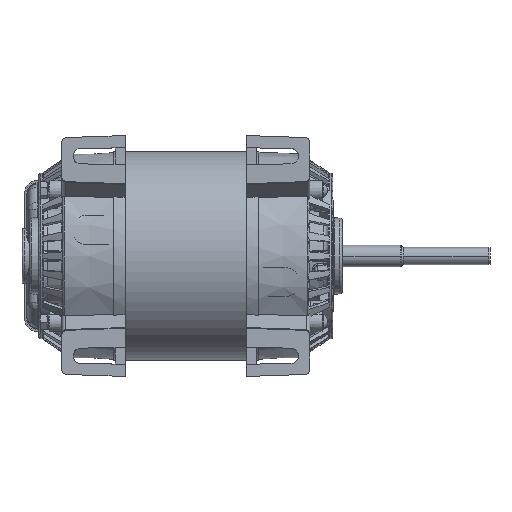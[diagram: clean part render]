
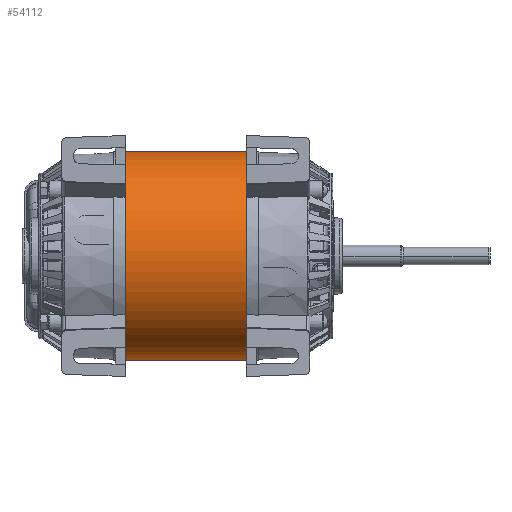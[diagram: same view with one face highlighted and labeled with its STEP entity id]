
A CAD part, front view. The second image highlights one B-rep face of the part: STEP entity #54112.
In plain terms, the highlighted cylindrical face has radius 48 mm (diameter 96 mm), a partial arc.
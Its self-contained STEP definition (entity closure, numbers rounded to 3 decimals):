
#2749 = DIRECTION ( 'NONE',  ( 1., 0., 0. ) ) ;
#4159 = DIRECTION ( 'NONE',  ( -1., 0., 0. ) ) ;
#6155 = ORIENTED_EDGE ( 'NONE', *, *, #107371, .T. ) ;
#11751 = VERTEX_POINT ( 'NONE', #82400 ) ;
#11985 = CARTESIAN_POINT ( 'NONE',  ( 0., 0., 0. ) ) ;
#12007 = CIRCLE ( 'NONE', #19352, 48. ) ;
#12012 = CARTESIAN_POINT ( 'NONE',  ( -56., 0., 0. ) ) ;
#13744 = CARTESIAN_POINT ( 'NONE',  ( -56., 0., 48. ) ) ;
#16261 = VERTEX_POINT ( 'NONE', #64817 ) ;
#19352 = AXIS2_PLACEMENT_3D ( 'NONE', #12012, #2749, #98994 ) ;
#24379 = ORIENTED_EDGE ( 'NONE', *, *, #107757, .F. ) ;
#25009 = EDGE_CURVE ( 'NONE', #40943, #16261, #12007, .T. ) ;
#29919 = EDGE_LOOP ( 'NONE', ( #24379, #67056, #6155, #60836 ) ) ;
#31006 = DIRECTION ( 'NONE',  ( -1., 0., 0. ) ) ;
#40943 = VERTEX_POINT ( 'NONE', #13744 ) ;
#41031 = LINE ( 'NONE', #57302, #78895 ) ;
#48518 = DIRECTION ( 'NONE',  ( -1., 0., 0. ) ) ;
#54112 = ADVANCED_FACE ( 'NONE', ( #94488 ), #78182, .T. ) ;
#57302 = CARTESIAN_POINT ( 'NONE',  ( 0., 0., -48. ) ) ;
#60836 = ORIENTED_EDGE ( 'NONE', *, *, #25009, .T. ) ;
#64817 = CARTESIAN_POINT ( 'NONE',  ( -56., 0., -48. ) ) ;
#67056 = ORIENTED_EDGE ( 'NONE', *, *, #75121, .T. ) ;
#71870 = CIRCLE ( 'NONE', #88595, 48. ) ;
#72558 = AXIS2_PLACEMENT_3D ( 'NONE', #95650, #86926, #111842 ) ;
#75107 = DIRECTION ( 'NONE',  ( 0., 0., 1. ) ) ;
#75121 = EDGE_CURVE ( 'NONE', #86579, #11751, #71870, .T. ) ;
#78182 = CYLINDRICAL_SURFACE ( 'NONE', #72558, 48. ) ;
#78895 = VECTOR ( 'NONE', #48518, 1000. ) ;
#82400 = CARTESIAN_POINT ( 'NONE',  ( 0., 0., 48. ) ) ;
#83535 = CARTESIAN_POINT ( 'NONE',  ( 0., 0., 48. ) ) ;
#86579 = VERTEX_POINT ( 'NONE', #92982 ) ;
#86926 = DIRECTION ( 'NONE',  ( -1., 0., 0. ) ) ;
#88595 = AXIS2_PLACEMENT_3D ( 'NONE', #11985, #31006, #75107 ) ;
#92982 = CARTESIAN_POINT ( 'NONE',  ( 0., 0., -48. ) ) ;
#94488 = FACE_OUTER_BOUND ( 'NONE', #29919, .T. ) ;
#95650 = CARTESIAN_POINT ( 'NONE',  ( 0., 0., 0. ) ) ;
#98994 = DIRECTION ( 'NONE',  ( 0., 0., 1. ) ) ;
#103217 = LINE ( 'NONE', #83535, #104779 ) ;
#104779 = VECTOR ( 'NONE', #4159, 1000. ) ;
#107371 = EDGE_CURVE ( 'NONE', #11751, #40943, #103217, .T. ) ;
#107757 = EDGE_CURVE ( 'NONE', #86579, #16261, #41031, .T. ) ;
#111842 = DIRECTION ( 'NONE',  ( 0., 0., 1. ) ) ;
